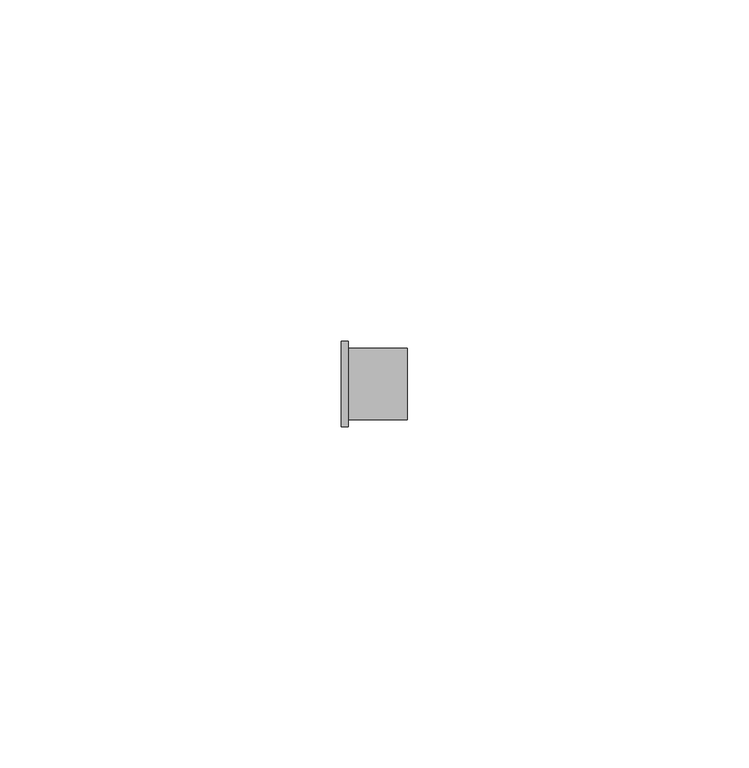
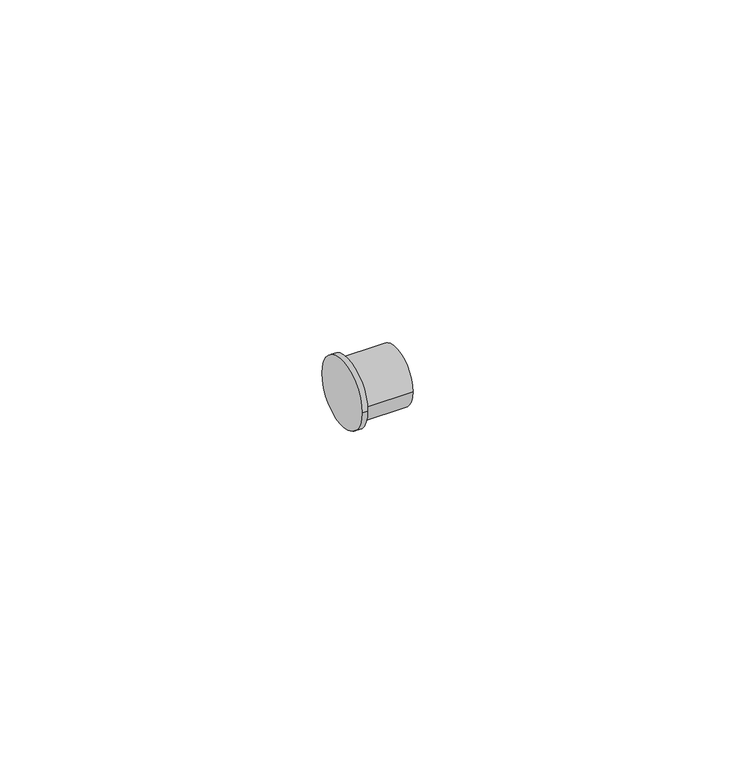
"""IFC4 building model written with IfcOpenShell, lengths in millimetres: pipe fitting geometry, Bucha de redução reta - Soldada - CU : Padrão."""

from ifc_helpers import new_model, si_unit, frame, origin, place, context, project, spatial, circle_curve, source, transform, mapped, element, save
from ifc_brep_helpers import plane_surface, cylinder_surface, advanced_brep


def pipe_fitting_6af5823a(model_context):
    return source(origin(), model_context, "Body", "AdvancedBrep", [
        advanced_brep(
        [(0.0, 6.25, 0.0), (0.0, -6.25, 0.0), (1.0, 6.25, 0.0), (1.0, -6.25, 0.0), (1.0, 5.2552, 0.0), (1.0, -5.2552, 0.0), (9.6744, 5.2552, 0.0), (9.6744, -5.2552, 0.0)],
        [
            (0, 1, circle_curve(frame((0.0, 0.0, 0.0), z_axis=(-1.0, 0.0, 0.0), x_axis=(0.0, -1.0, 0.0)), 6.25)),
            (1, 0, circle_curve(frame((0.0, 0.0, 0.0), z_axis=(-1.0, 0.0, 0.0), x_axis=(0.0, -1.0, 0.0)), 6.25)),
            (2, 3, circle_curve(frame((1.0, 0.0, 0.0), z_axis=(1.0, 0.0, 0.0), x_axis=(0.0, -1.0, 0.0)), 6.25)),
            (3, 2, circle_curve(frame((1.0, 0.0, 0.0), z_axis=(1.0, 0.0, 0.0), x_axis=(0.0, -1.0, 0.0)), 6.25)),
            (4, 5, circle_curve(frame((1.0, 0.0, 0.0), z_axis=(-1.0, 0.0, 0.0), x_axis=(0.0, -1.0, 0.0)), 5.2552)),
            (5, 4, circle_curve(frame((1.0, 0.0, 0.0), z_axis=(-1.0, 0.0, 0.0), x_axis=(0.0, -1.0, 0.0)), 5.2552)),
            (1, 3),
            (2, 0),
            (6, 7, circle_curve(frame((9.6744, 0.0, 0.0), z_axis=(1.0, 0.0, 0.0), x_axis=(0.0, -1.0, 0.0)), 5.2552)),
            (7, 6, circle_curve(frame((9.6744, 0.0, 0.0), z_axis=(1.0, 0.0, 0.0), x_axis=(0.0, -1.0, 0.0)), 5.2552)),
            (6, 4),
            (5, 7),
        ],
        [
            plane_surface(frame((0.0, 0.0, 0.0), z_axis=(-1.0, 0.0, 0.0), x_axis=(0.0, 0.0, 1.0))),
            plane_surface(frame((1.0, 0.0, 0.0), z_axis=(1.0, 0.0, 0.0), x_axis=(0.0, 0.0, 1.0))),
            cylinder_surface(frame((0.0, 0.0, 0.0), z_axis=(-1.0, 0.0, 0.0), x_axis=(0.0, -1.0, 0.0)), 6.25),
            plane_surface(frame((9.6744, 0.0, 0.0), z_axis=(1.0, 0.0, 0.0), x_axis=(0.0, 0.0, 1.0))),
            cylinder_surface(frame((1.0, 0.0, 0.0), z_axis=(-1.0, 0.0, 0.0), x_axis=(0.0, -1.0, 0.0)), 5.2552),
        ],
        [
            (0, [[1, 2]]),
            (1, [[3, 4], [5, 6]]),
            (2, [[7, -3, 8, -2]]),
            (2, [[-8, -4, -7, -1]]),
            (3, [[9, 10]]),
            (4, [[11, -6, 12, -9]]),
            (4, [[-12, -5, -11, -10]]),
        ],
    ),
    ])


if __name__ == "__main__":
    model = new_model("IFC4")
    model_context = context("Model", 3, world=origin())
    ifc_project = project(units=[si_unit("LENGTHUNIT", "METRE", prefix="MILLI")], contexts=[model_context])
    site = spatial("IfcSite", under=ifc_project)
    building = spatial("IfcBuilding", under=site)
    placement = place(None, origin())
    pipe_fitting_shape = pipe_fitting_6af5823a(model_context)
    element("IfcPipeFitting", 1, ObjectType="Bucha de redução reta - Soldada - CU : Padrão", at=placement, inside=building, context=model_context, shape_type="MappedRepresentation", body=[
        mapped(pipe_fitting_shape, transform((0.0, 0.0, 0.0), x_axis=(1.0, 0.0, 0.0), y_axis=(0.0, 1.0, 0.0), z_axis=(0.0, 0.0, 1.0))),
    ])
    save(model, "model.ifc")
